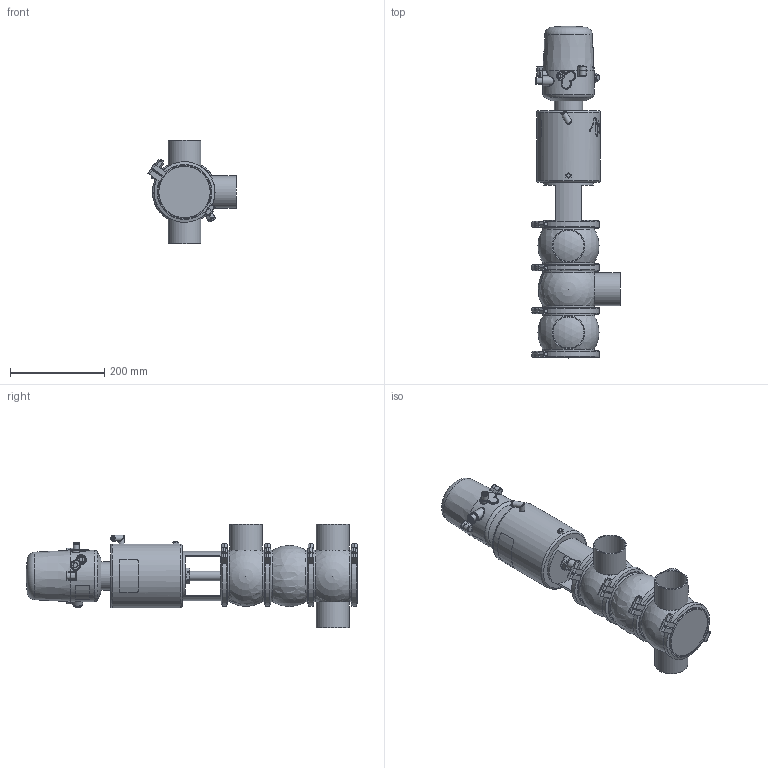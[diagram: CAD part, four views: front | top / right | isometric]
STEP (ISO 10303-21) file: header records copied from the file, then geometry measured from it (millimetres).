
FILE_DESCRIPTION (( 'STEP AP214' ), '1' );
FILE_NAME ('INNOVA L S W DIN 065 T3 AS NC & C-TOP S_10.241.16.0058.STEP', '2024-08-06T12:27:08', ( '' ), ( '' ), 'SwSTEP 2.0', 'SolidWorks 2023', '' );
FILE_SCHEMA (( 'AUTOMOTIVE_DESIGN' ));
Length unit declared in the file: millimetre
Products named in the file (9): 10.240.15.0014_T3 AS P180; 10.240.15.0001_DN 065; 10.240.15.0006_DIN 065; 10.426.15.0001_C-TOP S - 1 EV; 10.240.15.0007_DIN 065; 10.241.15.0001_DIN 065; INNOVA L S W DIN 065 T3 AS NC & C-TOP S_10.241.16.0058; 10.240.15.0010_DN 065; 10.240.15.0017_Estàndard
Assembly tree (12 placements, depth 2):
  INNOVA L S W DIN 065 T3 AS NC & C-TOP S_10.241.16.0058
    10.240.15.0006_DIN 065  x2
    10.240.15.0007_DIN 065
    10.240.15.0010_DN 065
    10.240.15.0014_T3 AS P180
    10.240.15.0017_Estàndard
    10.426.15.0001_C-TOP S - 1 EV
    10.240.15.0001_DN 065  x4
    10.241.15.0001_DIN 065
Bounding box: 188.15 x 705.5 x 220 mm (x, y, z)
Volume: 7355610 mm3; surface area: 645678.1 mm2
Topology: 13 solids, 13 shells, 1315 faces, 3196 edges, 2121 vertices
Faces by surface type: plane 482, cylinder 405, cone 221, bspline 160, torus 36, sphere 11
Full cylindrical faces by diameter (mm): 0.371 x17, 0.512 x16, 0.658 x16, 0.795 x16, 0.94 x15, 1.098 x15, 1.241 x13, 1.382 x13, 1.523 x11, 1.669 x10, 2.201 x1, 4 x2, 5.5 x2, 6 x2, 6.15 x1, 8 x10, 8.5 x1, 10 x1, 10.5 x1, 11 x2, 12.5 x3, 13 x2, 13.5 x2, 16 x1, 17 x3, 20 x3, 20.5 x1, 22 x2, 31 x1, 34.5 x3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
Entity records: 58181 total; most frequent: CARTESIAN_POINT 27784, ORIENTED_EDGE 4522, DIRECTION 3689, EDGE_CURVE 2261, VERTEX_POINT 1612, EDGE_LOOP 1585, AXIS2_PLACEMENT_3D 1516, FACE_OUTER_BOUND 1342
